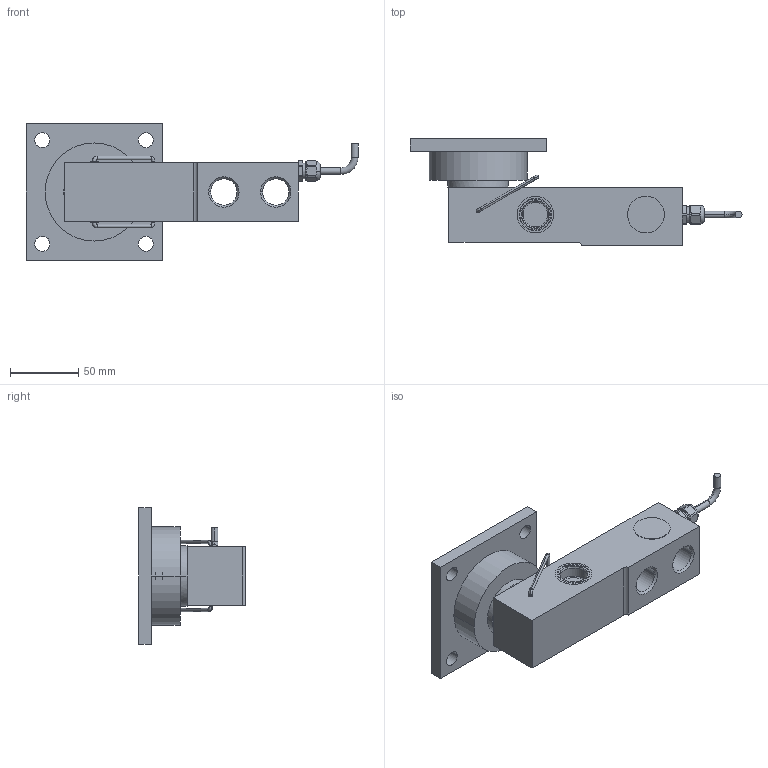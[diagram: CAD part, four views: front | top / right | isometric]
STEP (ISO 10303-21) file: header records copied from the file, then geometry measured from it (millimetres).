
FILE_DESCRIPTION((''),'2;1');
FILE_NAME('72208671-0745A-4400KG_SW0002','2014-07-15T',('wang-379'),(''),'PRO/ENGINEER BY PARAMETRIC TECHNOLOGY CORPORATION, 2013320','PRO/ENGINEER BY PARAMETRIC TECHNOLOGY CORPORATION, 2013320','');
FILE_SCHEMA(('CONFIG_CONTROL_DESIGN'));
Length unit declared in the file: millimetre
Products named in the file (1): 72208671-0745A-4400KG_SW0002
Bounding box: 243.75 x 78.44 x 100 mm (x, y, z)
Volume: 420869.8 mm3; surface area: 85193.7 mm2
Topology: 2 solids, 3 shells, 222 faces, 568 edges, 367 vertices
Faces by surface type: cylinder 86, plane 72, torus 37, cone 25, sphere 2
Entity records: 7248 total; most frequent: CARTESIAN_POINT 1558, DIRECTION 1295, ORIENTED_EDGE 1132, EDGE_CURVE 566, AXIS2_PLACEMENT_3D 543, VERTEX_POINT 367, CIRCLE 321, EDGE_LOOP 259
